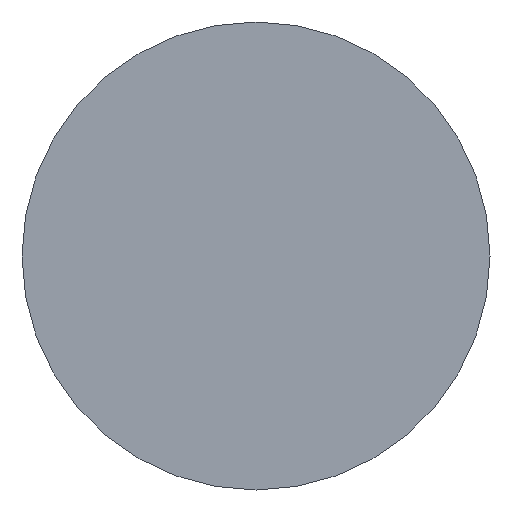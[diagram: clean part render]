
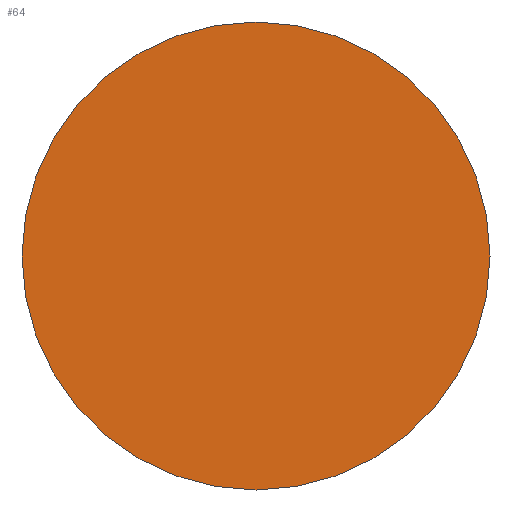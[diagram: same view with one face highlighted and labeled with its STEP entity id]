
A CAD part, front view. The second image highlights one B-rep face of the part: STEP entity #64.
In plain terms, the highlighted planar face has unit normal (0, -1, 0).
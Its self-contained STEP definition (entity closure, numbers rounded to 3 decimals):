
#2 = VERTEX_POINT ( 'NONE', #133 ) ;
#23 = ORIENTED_EDGE ( 'NONE', *, *, #171, .T. ) ;
#25 = CIRCLE ( 'NONE', #181, 11. ) ;
#35 = VERTEX_POINT ( 'NONE', #136 ) ;
#37 = CIRCLE ( 'NONE', #185, 11. ) ;
#38 = EDGE_LOOP ( 'NONE', ( #47, #23 ) ) ;
#47 = ORIENTED_EDGE ( 'NONE', *, *, #183, .T. ) ;
#54 = FACE_OUTER_BOUND ( 'NONE', #38, .T. ) ;
#64 = ADVANCED_FACE ( 'NONE', ( #54 ), #120, .T. ) ;
#85 = DIRECTION ( 'NONE',  ( 0., 0., -1. ) ) ;
#86 = DIRECTION ( 'NONE',  ( 0., -1., 0. ) ) ;
#87 = CARTESIAN_POINT ( 'NONE',  ( 0., 0., 0. ) ) ;
#93 = DIRECTION ( 'NONE',  ( 0., 0., -1. ) ) ;
#94 = DIRECTION ( 'NONE',  ( 0., -1., 0. ) ) ;
#95 = CARTESIAN_POINT ( 'NONE',  ( 0., 0., 0. ) ) ;
#118 = DIRECTION ( 'NONE',  ( 0., 0., -1. ) ) ;
#119 = DIRECTION ( 'NONE',  ( 0., -1., 0. ) ) ;
#120 = PLANE ( 'NONE',  #166 ) ;
#122 = CARTESIAN_POINT ( 'NONE',  ( 0., 0., 0. ) ) ;
#133 = CARTESIAN_POINT ( 'NONE',  ( 0., 0., -11. ) ) ;
#136 = CARTESIAN_POINT ( 'NONE',  ( 0., 0., 11. ) ) ;
#166 = AXIS2_PLACEMENT_3D ( 'NONE', #122, #119, #118 ) ;
#171 = EDGE_CURVE ( 'NONE', #35, #2, #37, .T. ) ;
#181 = AXIS2_PLACEMENT_3D ( 'NONE', #87, #86, #85 ) ;
#183 = EDGE_CURVE ( 'NONE', #2, #35, #25, .T. ) ;
#185 = AXIS2_PLACEMENT_3D ( 'NONE', #95, #94, #93 ) ;
